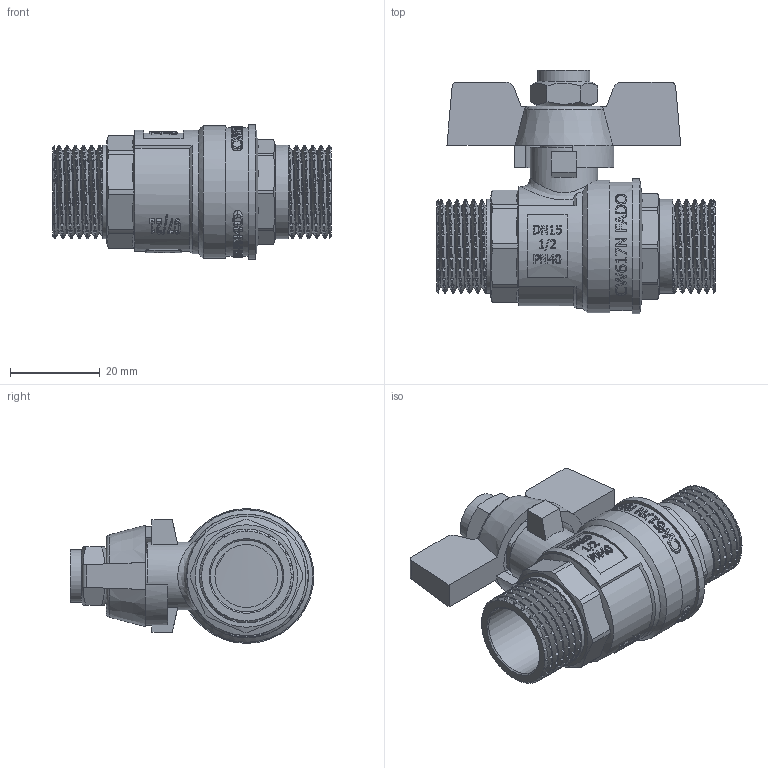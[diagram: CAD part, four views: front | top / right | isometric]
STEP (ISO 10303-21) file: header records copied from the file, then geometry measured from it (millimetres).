
FILE_DESCRIPTION(/* description */ (''),/* implementation_level */ '2;1');
FILE_NAME(/* name */ 'C:\Users\Doom\Desktop\Фадотех\KNN11 08.11.2021\KNN11 08.11.2021.stp',/* time_stamp */ '2021-12-05T14:59:13+02:00',/* author */ ('Doom'),/* organization */ (''),/* preprocessor_version */ 'ST-DEVELOPER v18',/* originating_system */ 'Autodesk Inventor 2020',/* authorisation */ '');
FILE_SCHEMA (('AUTOMOTIVE_DESIGN { 1 0 10303 214 3 1 1 }'));
Products named in the file (8): KNN11 08.11.2021; 20642011; KA2 08.11.2021; 22208286; KA1 08.11.2021; 5010501048005; KA2 08.11.2021_1; DIN 985 - M8
Assembly tree (7 placements, depth 2):
  KNN11 08.11.2021
    20642011
    KA2 08.11.2021
    22208286
    KA1 08.11.2021
    5010501048005
    KA2 08.11.2021_1
    DIN 985 - M8
Bounding box: 62 x 54.2 x 30 mm (x, y, z)
Volume: 23498.2 mm3; surface area: 26932.8 mm2
Topology: 14 solids, 14 shells, 2577 faces, 7362 edges, 4888 vertices
Faces by surface type: plane 1170, bspline 887, cylinder 427, cone 83, torus 9, sphere 1
Full cylindrical faces by diameter (mm): 6.647 x1, 8 x1, 8.1 x1, 8.2 x1, 8.946 x3, 10 x1, 10.3 x1, 10.8 x2, 11.6 x1, 12.5 x2, 14 x2, 15 x2, 15.5 x1, 16 x1, 17.5 x1, 18.21 x4, 20 x1, 20.9 x2, 21 x1, 21.276 x4, 22.776 x2, 23.5 x2, 25 x6, 28.5 x1, 29.5 x1, 30 x1
Entity records: 144352 total; most frequent: CARTESIAN_POINT 87152, ORIENTED_EDGE 14710, DIRECTION 7398, EDGE_CURVE 7355, VERTEX_POINT 4885, B_SPLINE_CURVE_WITH_KNOTS 4063, EDGE_LOOP 2678, FACE_OUTER_BOUND 2576
